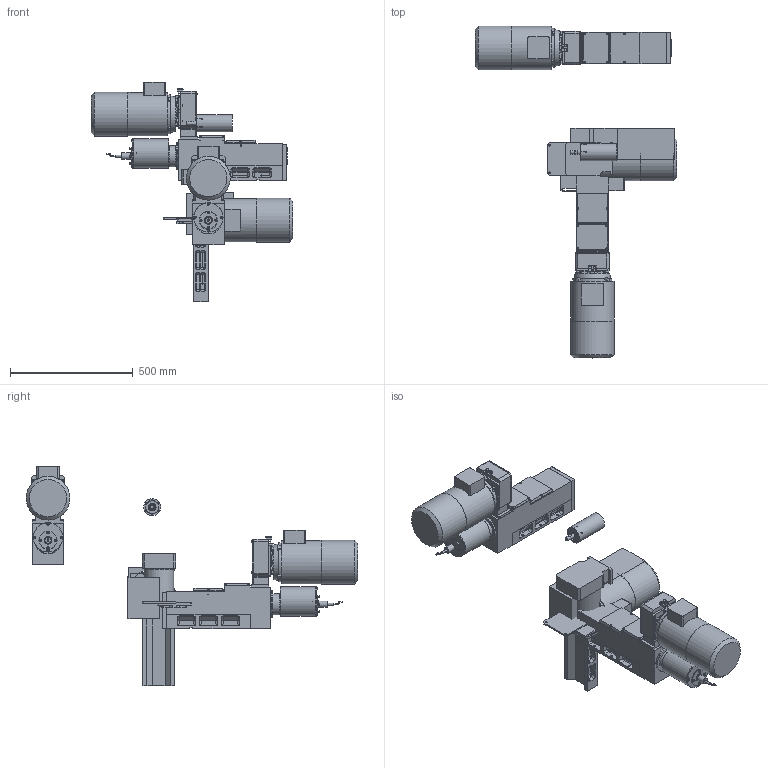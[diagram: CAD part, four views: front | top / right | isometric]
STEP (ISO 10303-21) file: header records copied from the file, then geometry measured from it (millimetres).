
FILE_DESCRIPTION( ( 'STEP AP203' ), '1' );
FILE_NAME( 'C:/Documents and Settings/Saverio/Desktop/disegni ironcad/unità serie 2/M216 (ex M220)/M 216_A01_P.stp', '2014-03-25T09:35:53', ( ' ' ), ( ' ' ), 'XStep 1.0', ' ', ' ' );
FILE_SCHEMA( ( 'CONFIG_CONTROL_DESIGN' ) );
Length unit declared in the file: metre
Products named in the file (48): Assem1; Assem2; Assem3; 1; 2; 3; 4; 5; 6; 7; 8; 9; 10; 11; 12; 13; 14; 15; 16; 17; 18; 19; 20; 21; 22; 23; 24; 25; 26; 27; 28; 29; 30; 31; 32; 33; 34; 35; 36; 37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
Bounding box: 823.57 x 1353.73 x 894.21 mm (x, y, z)
Volume: 56307158.8 mm3; surface area: 3910431.6 mm2
Topology: 135 solids, 135 shells, 3153 faces, 7110 edges, 4308 vertices
Faces by surface type: plane 1686, cylinder 795, cone 438, bspline 126, sphere 60, torus 48
Full cylindrical faces by diameter (mm): 5 x66, 5.25 x12, 5.5 x33, 6.5 x18, 6.637 x15, 6.647 x12, 7 x3, 8 x3, 8.385 x3, 8.5 x48, 8.75 x18, 18 x9, 20 x3, 24 x3, 26 x3, 30 x6, 31.2 x3, 52 x3, 53 x3, 54 x6, 70 x9, 74 x6, 76 x3, 80 x6, 86 x3, 95 x3, 112 x3, 120 x6, 177.21 x3, 179 x3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
Entity records: 31840 total; most frequent: CARTESIAN_POINT 7796, DIRECTION 4585, ORIENTED_EDGE 4040, EDGE_CURVE 2020, AXIS2_PLACEMENT_3D 1712, EDGE_LOOP 1435, VERTEX_POINT 1384, FACE_OUTER_BOUND 1178
